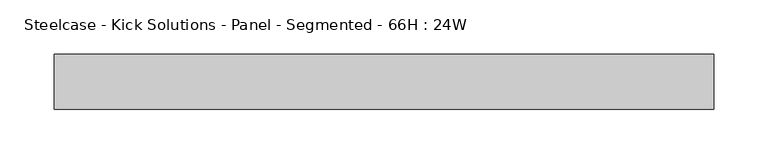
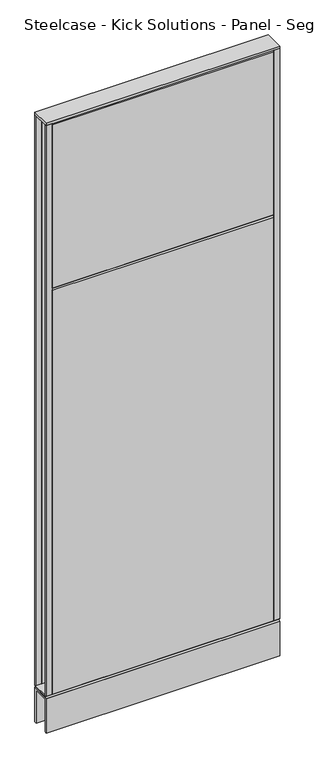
"""IFC4 building model written with IfcOpenShell, lengths in millimetres: furniture geometry, Steelcase - Kick Solutions - Panel - Segmented - 66H : 24W."""

from ifc_helpers import new_model, si_unit, frame, origin, place, context, project, spatial, polyline, outline, extrude, source, transform, mapped, element, save


def steelcase_kick_solutions_panel_segmented_66h_24w_1271ba70(model_context):
    return source(origin(), model_context, "Body", "SweptSolid", [
        extrude(outline(polyline([(1.5e-06, 101.600003), (-3.175, 101.600003), (-3.175, 1676.4), (1.5e-06, 1673.3188448), (1.5e-06, 101.600003)])), frame((15.8749996, 0.0, 0.0), z_axis=(1.0, 0.0, 0.0), x_axis=(0.0, 1.0, 0.0)), (0.0, 0.0, 1.0), 577.8500008),
        extrude(outline(polyline([(-50.8000015, 1222.2811552), (-50.8000015, 1673.3188448), (-47.625, 1676.4), (-47.625, 1219.2), (-50.8000015, 1222.2811552)])), frame((15.8749996, 0.0, 0.0), z_axis=(1.0, 0.0, 0.0), x_axis=(0.0, 1.0, 0.0)), (0.0, 0.0, 1.0), 577.8500008),
        extrude(outline(polyline([(-50.8000015, 101.600003), (-50.8000015, 1216.1188448), (-47.625, 1219.2), (-47.625, 101.600003), (-50.8000015, 101.600003)])), frame((15.8749996, 0.0, 0.0), z_axis=(1.0, 0.0, 0.0), x_axis=(0.0, 1.0, 0.0)), (0.0, 0.0, 1.0), 577.8500008),
        extrude(outline(polyline([(609.6, -3.1750015), (593.7250004, -3.1750015), (593.7250004, 0.0), (609.6, 0.0), (609.6, -3.1750015)])), frame((0.0, 0.0, 101.7169049), z_axis=(0.0, 0.0, 1.0), x_axis=(1.0, 0.0, 0.0)), (0.0, 0.0, 1.0), 1574.799997),
        extrude(outline(polyline([(15.8749996, -50.8000015), (0.0, -50.8000015), (0.0, -47.625), (15.8749996, -47.625), (15.8749996, -50.8000015)])), frame((0.0, 0.0, 101.7169049), z_axis=(0.0, 0.0, 1.0), x_axis=(1.0, 0.0, 0.0)), (0.0, 0.0, 1.0), 1574.799997),
        extrude(outline(polyline([(-50.7995075, 101.7169049), (-0.000494, 101.7169049), (-3.0583512, 98.5421458), (-47.7416503, 98.5421458), (-50.7995075, 101.7169049)])), frame((0.0, 0.0, 0.0), z_axis=(1.0, 0.0, 0.0), x_axis=(0.0, 1.0, 0.0)), (0.0, 0.0, 1.0), 609.6),
        extrude(outline(polyline([(609.6, 0.0), (609.6, -50.8000015), (0.0, -50.8000015), (0.0, 0.0), (609.6, 0.0)])), frame((0.0, 0.0, 1676.5169018), z_axis=(0.0, 0.0, 1.0), x_axis=(1.0, 0.0, 0.0)), (0.0, 0.0, 1.0), 6.35),
        extrude(outline(polyline([(15.8749996, -3.1750015), (0.0, -3.1750015), (0.0, 0.0), (15.8749996, 0.0), (15.8749996, -3.1750015)])), frame((0.0, 0.0, 101.7169049), z_axis=(0.0, 0.0, 1.0), x_axis=(1.0, 0.0, 0.0)), (0.0, 0.0, 1.0), 1574.799997),
        extrude(outline(polyline([(609.6, -50.8000015), (593.7250004, -50.8000015), (593.7250004, -47.625), (609.6, -47.625), (609.6, -50.8000015)])), frame((0.0, 0.0, 101.7169049), z_axis=(0.0, 0.0, 1.0), x_axis=(1.0, 0.0, 0.0)), (0.0, 0.0, 1.0), 1574.799997),
        extrude(outline(polyline([(-50.8000015, 95.3668927), (-47.6247484, 98.5421458), (-3.1752531, 98.5421458), (0.0, 95.3668927), (-50.8000015, 95.3668927)])), frame((0.0, 0.0, 0.0), z_axis=(1.0, 0.0, 0.0), x_axis=(0.0, 1.0, 0.0)), (0.0, 0.0, 1.0), 609.6),
        extrude(outline(polyline([(0.0, 0.0), (-5.08, 0.0), (-5.08, 90.2869018), (-45.7200015, 90.2869018), (-45.7200015, 0.0), (-50.8000015, 0.0), (-50.8000015, 95.3669018), (0.0, 95.3669018), (0.0, 0.0)])), frame((0.0, 0.0, 0.0), z_axis=(1.0, 0.0, 0.0), x_axis=(0.0, 1.0, 0.0)), (0.0, 0.0, 1.0), 609.6),
    ])


if __name__ == "__main__":
    model = new_model("IFC4")
    model_context = context("Model", 3, world=origin())
    ifc_project = project(units=[si_unit("LENGTHUNIT", "METRE", prefix="MILLI")], contexts=[model_context])
    site = spatial("IfcSite", under=ifc_project)
    building = spatial("IfcBuilding", under=site)
    placement = place(None, origin())
    steelcase_kick_solutions_panel_segmented_66h_24w_shape = steelcase_kick_solutions_panel_segmented_66h_24w_1271ba70(model_context)
    element("IfcFurniture", 1, ObjectType="Steelcase - Kick Solutions - Panel - Segmented - 66H : 24W", at=placement, inside=building, context=model_context, shape_type="MappedRepresentation", body=[
        mapped(steelcase_kick_solutions_panel_segmented_66h_24w_shape, transform((0.0, 0.0, 0.0), x_axis=(1.0, 0.0, 0.0), y_axis=(0.0, 1.0, 0.0), z_axis=(0.0, 0.0, 1.0))),
    ])
    save(model, "model.ifc")
